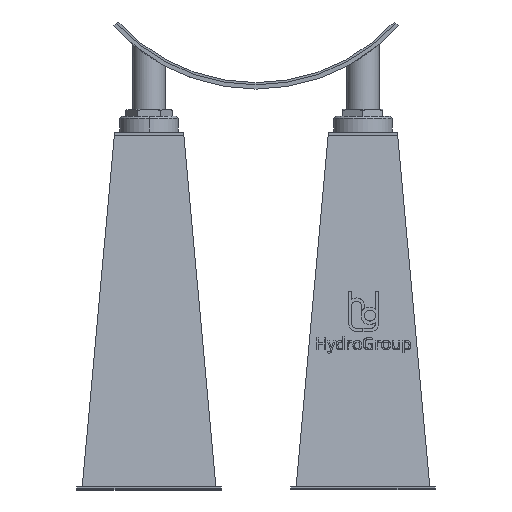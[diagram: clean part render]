
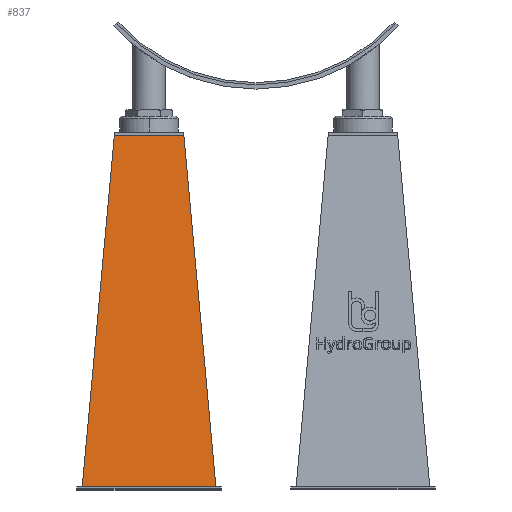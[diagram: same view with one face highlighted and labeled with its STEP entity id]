
A CAD part, front view. The second image highlights one B-rep face of the part: STEP entity #837.
In plain terms, the highlighted planar face has unit normal (0, -0.996, 0.091).
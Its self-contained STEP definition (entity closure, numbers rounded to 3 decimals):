
#837=ADVANCED_FACE('',(#1895),#1896,.T.);
#1895=FACE_OUTER_BOUND('',#3264,.T.);
#1896=PLANE('',#3265);
#3264=EDGE_LOOP('',(#5754,#5755,#5756,#5757));
#3265=AXIS2_PLACEMENT_3D('',#5758,#5759,#5760);
#5754=ORIENTED_EDGE('',*,*,#8774,.T.);
#5755=ORIENTED_EDGE('',*,*,#8791,.F.);
#5756=ORIENTED_EDGE('',*,*,#8761,.T.);
#5757=ORIENTED_EDGE('',*,*,#8521,.T.);
#5758=CARTESIAN_POINT('',(179.463,197.356,663.273));
#5759=DIRECTION('',(0.,-0.996,0.091));
#5760=DIRECTION('',(-1.0,0.,0.));
#8521=EDGE_CURVE('',#10151,#10149,#10152,.F.);
#8761=EDGE_CURVE('',#10465,#10151,#10466,.F.);
#8774=EDGE_CURVE('',#10149,#10487,#10490,.T.);
#8791=EDGE_CURVE('',#10465,#10487,#10511,.T.);
#10149=VERTEX_POINT('',#12705);
#10151=VERTEX_POINT('',#12708);
#10152=LINE('',#12709,#12710);
#10465=VERTEX_POINT('',#13280);
#10466=LINE('',#13281,#13282);
#10487=VERTEX_POINT('',#13313);
#10490=LINE('',#13317,#13318);
#10511=LINE('',#13349,#13350);
#12705=CARTESIAN_POINT('',(116.451,137.331,6.));
#12708=CARTESIAN_POINT('',(176.451,197.331,663.));
#12709=CARTESIAN_POINT('',(177.009,197.889,669.11));
#12710=VECTOR('',#16182,1.);
#13280=CARTESIAN_POINT('',(306.476,197.331,663.));
#13281=CARTESIAN_POINT('',(210.463,197.331,663.));
#13282=VECTOR('',#16352,1.);
#13313=CARTESIAN_POINT('',(366.476,137.331,6.));
#13317=CARTESIAN_POINT('',(210.463,137.331,6.));
#13318=VECTOR('',#16364,1.);
#13349=CARTESIAN_POINT('',(305.918,197.889,669.11));
#13350=VECTOR('',#16375,1.);
#16182=DIRECTION('',(0.091,0.091,0.992));
#16352=DIRECTION('',(1.0,0.,0.));
#16364=DIRECTION('',(1.0,0.,0.));
#16375=DIRECTION('',(0.091,-0.091,-0.992));
